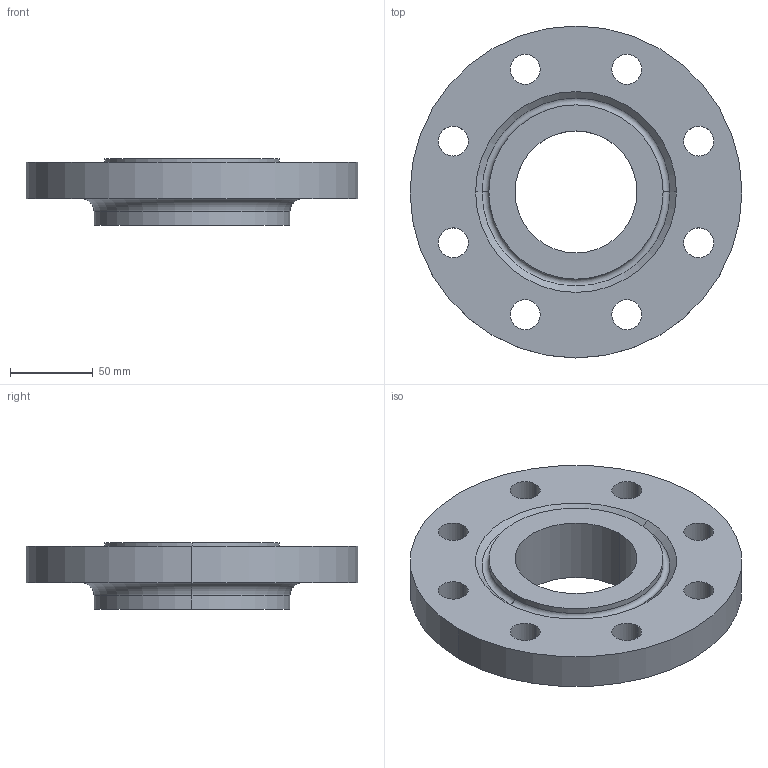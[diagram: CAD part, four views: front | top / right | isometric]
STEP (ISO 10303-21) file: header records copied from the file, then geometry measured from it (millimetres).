
FILE_DESCRIPTION (( 'STEP AP214' ), '1' );
FILE_NAME ('PN40 DN80 Type 13 - Type H Face.STEP', '2019-01-01T19:36:52', ( '' ), ( '' ), 'SwSTEP 2.0', 'SolidWorks 2019', '' );
FILE_SCHEMA (( 'AUTOMOTIVE_DESIGN' ));
Length unit declared in the file: millimetre
Products named in the file (1): PN40 DN80 Type 13 - Type H Face
Bounding box: 200 x 200 x 40 mm (x, y, z)
Volume: 666663.9 mm3; surface area: 90122.7 mm2
Topology: 1 solids, 1 shells, 34 faces, 84 edges, 54 vertices
Faces by surface type: cylinder 24, torus 4, plane 4, cone 2
Entity records: 1108 total; most frequent: DIRECTION 212, CARTESIAN_POINT 173, ORIENTED_EDGE 168, AXIS2_PLACEMENT_3D 93, EDGE_CURVE 84, CIRCLE 58, EDGE_LOOP 54, VERTEX_POINT 54
